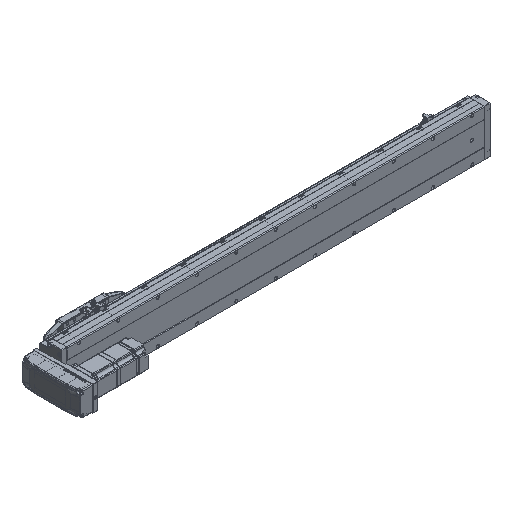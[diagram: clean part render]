
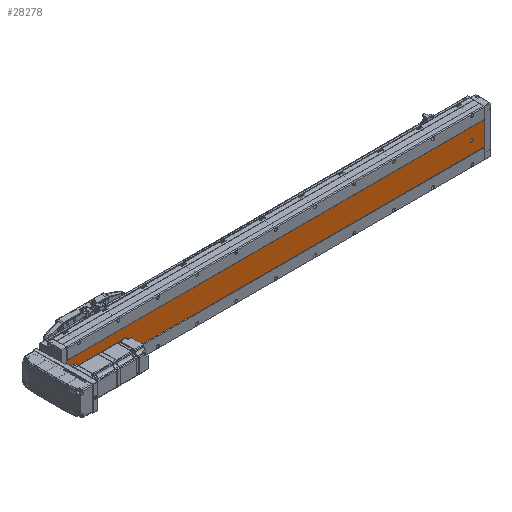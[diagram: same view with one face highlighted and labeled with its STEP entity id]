
A CAD part, isometric view. The second image highlights one B-rep face of the part: STEP entity #28278.
In plain terms, the highlighted planar face has unit normal (0, -1, 0).
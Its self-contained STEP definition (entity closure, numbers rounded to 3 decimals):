
#176 = EDGE_CURVE ( 'NONE', #70844, #23624, #48824, .T. ) ;
#596 = VERTEX_POINT ( 'NONE', #64797 ) ;
#1865 = VERTEX_POINT ( 'NONE', #21945 ) ;
#1921 = AXIS2_PLACEMENT_3D ( 'NONE', #20365, #45517, #64207 ) ;
#2333 = CARTESIAN_POINT ( 'NONE',  ( -39.892, -52.848, 931. ) ) ;
#3160 = VECTOR ( 'NONE', #64831, 1000. ) ;
#3399 = AXIS2_PLACEMENT_3D ( 'NONE', #54602, #60924, #23341 ) ;
#4233 = ORIENTED_EDGE ( 'NONE', *, *, #47274, .T. ) ;
#4764 = VECTOR ( 'NONE', #57165, 1000. ) ;
#5585 = ORIENTED_EDGE ( 'NONE', *, *, #79745, .T. ) ;
#5616 = CARTESIAN_POINT ( 'NONE',  ( -39.892, -52.848, 32. ) ) ;
#5720 = FACE_BOUND ( 'NONE', #21204, .T. ) ;
#6120 = DIRECTION ( 'NONE',  ( 0., 1., 0. ) ) ;
#6353 = CARTESIAN_POINT ( 'NONE',  ( -9.892, -52.848, 1061. ) ) ;
#8074 = AXIS2_PLACEMENT_3D ( 'NONE', #81326, #6120, #56410 ) ;
#8247 = CARTESIAN_POINT ( 'NONE',  ( -39.892, -52.848, 30. ) ) ;
#8263 = ORIENTED_EDGE ( 'NONE', *, *, #73656, .T. ) ;
#9354 = DIRECTION ( 'NONE',  ( 0., 0., 1. ) ) ;
#9417 = ORIENTED_EDGE ( 'NONE', *, *, #76785, .T. ) ;
#9771 = CARTESIAN_POINT ( 'NONE',  ( -39.892, -52.848, 1034.5 ) ) ;
#10187 = CIRCLE ( 'NONE', #1921, 3.5 ) ;
#10412 = ORIENTED_EDGE ( 'NONE', *, *, #16527, .T. ) ;
#10441 = EDGE_CURVE ( 'NONE', #1865, #36926, #41970, .T. ) ;
#10847 = CIRCLE ( 'NONE', #69382, 3.5 ) ;
#12027 = CARTESIAN_POINT ( 'NONE',  ( -43.392, -52.848, 30. ) ) ;
#12266 = LINE ( 'NONE', #69091, #41777 ) ;
#13617 = ORIENTED_EDGE ( 'NONE', *, *, #10441, .T. ) ;
#13829 = EDGE_CURVE ( 'NONE', #23624, #70844, #38627, .T. ) ;
#15469 = CARTESIAN_POINT ( 'NONE',  ( -43.392, -52.848, 1061. ) ) ;
#16104 = DIRECTION ( 'NONE',  ( 1., 0., 0. ) ) ;
#16527 = EDGE_CURVE ( 'NONE', #40555, #22874, #71548, .T. ) ;
#17632 = FACE_BOUND ( 'NONE', #66621, .T. ) ;
#19496 = DIRECTION ( 'NONE',  ( 1., 0., 0. ) ) ;
#19590 = VECTOR ( 'NONE', #71736, 1000. ) ;
#20365 = CARTESIAN_POINT ( 'NONE',  ( -39.892, -52.848, 30. ) ) ;
#20854 = DIRECTION ( 'NONE',  ( 0., 1., 0. ) ) ;
#21204 = EDGE_LOOP ( 'NONE', ( #23195, #30344 ) ) ;
#21600 = FACE_OUTER_BOUND ( 'NONE', #80601, .T. ) ;
#21945 = CARTESIAN_POINT ( 'NONE',  ( -69.892, -52.848, 0. ) ) ;
#22825 = VERTEX_POINT ( 'NONE', #65369 ) ;
#22874 = VERTEX_POINT ( 'NONE', #46682 ) ;
#23086 = DIRECTION ( 'NONE',  ( 0., 0., 1. ) ) ;
#23195 = ORIENTED_EDGE ( 'NONE', *, *, #176, .T. ) ;
#23341 = DIRECTION ( 'NONE',  ( 0., 0., 1. ) ) ;
#23624 = VERTEX_POINT ( 'NONE', #34868 ) ;
#23972 = DIRECTION ( 'NONE',  ( 0., 1., 0. ) ) ;
#24644 = DIRECTION ( 'NONE',  ( 0., 0., 1. ) ) ;
#25032 = CARTESIAN_POINT ( 'NONE',  ( -36.392, -52.848, 32. ) ) ;
#28278 = ADVANCED_FACE ( 'NONE', ( #17632, #5720, #49961, #21600 ), #67479, .F. ) ;
#29991 = VERTEX_POINT ( 'NONE', #12027 ) ;
#30344 = ORIENTED_EDGE ( 'NONE', *, *, #13829, .T. ) ;
#31275 = DIRECTION ( 'NONE',  ( 0., 1., 0. ) ) ;
#31511 = VERTEX_POINT ( 'NONE', #55970 ) ;
#32418 = VERTEX_POINT ( 'NONE', #73044 ) ;
#33715 = ORIENTED_EDGE ( 'NONE', *, *, #51371, .F. ) ;
#33898 = CARTESIAN_POINT ( 'NONE',  ( -69.892, -52.848, 1061. ) ) ;
#34868 = CARTESIAN_POINT ( 'NONE',  ( -39.892, -52.848, 934.5 ) ) ;
#35606 = EDGE_LOOP ( 'NONE', ( #5585, #8263 ) ) ;
#36665 = LINE ( 'NONE', #15469, #3160 ) ;
#36926 = VERTEX_POINT ( 'NONE', #60071 ) ;
#38627 = CIRCLE ( 'NONE', #58667, 3.5 ) ;
#40531 = CARTESIAN_POINT ( 'NONE',  ( -36.392, -52.848, 1061. ) ) ;
#40555 = VERTEX_POINT ( 'NONE', #25032 ) ;
#41777 = VECTOR ( 'NONE', #19496, 1000. ) ;
#41970 = LINE ( 'NONE', #73371, #77242 ) ;
#42657 = CARTESIAN_POINT ( 'NONE',  ( -39.892, -52.848, 931. ) ) ;
#44051 = CARTESIAN_POINT ( 'NONE',  ( -39.892, -52.848, 927.5 ) ) ;
#44388 = EDGE_CURVE ( 'NONE', #22825, #1865, #50490, .T. ) ;
#44847 = EDGE_CURVE ( 'NONE', #22874, #596, #10187, .T. ) ;
#45517 = DIRECTION ( 'NONE',  ( 0., 1., 0. ) ) ;
#46682 = CARTESIAN_POINT ( 'NONE',  ( -36.392, -52.848, 30. ) ) ;
#47030 = LINE ( 'NONE', #6353, #4764 ) ;
#47274 = EDGE_CURVE ( 'NONE', #596, #29991, #10847, .T. ) ;
#48027 = CARTESIAN_POINT ( 'NONE',  ( -43.392, -52.848, 32. ) ) ;
#48824 = CIRCLE ( 'NONE', #68654, 3.5 ) ;
#49961 = FACE_BOUND ( 'NONE', #35606, .T. ) ;
#50490 = LINE ( 'NONE', #33898, #52483 ) ;
#51371 = EDGE_CURVE ( 'NONE', #32418, #36926, #47030, .T. ) ;
#51715 = AXIS2_PLACEMENT_3D ( 'NONE', #66688, #54876, #23086 ) ;
#52483 = VECTOR ( 'NONE', #70851, 1000. ) ;
#54602 = CARTESIAN_POINT ( 'NONE',  ( -39.892, -52.848, 1031. ) ) ;
#54876 = DIRECTION ( 'NONE',  ( 0., 1., 0. ) ) ;
#55970 = CARTESIAN_POINT ( 'NONE',  ( -39.892, -52.848, 1027.5 ) ) ;
#56410 = DIRECTION ( 'NONE',  ( 0., 0., 1. ) ) ;
#57165 = DIRECTION ( 'NONE',  ( 0., 0., -1. ) ) ;
#58667 = AXIS2_PLACEMENT_3D ( 'NONE', #42657, #23972, #80161 ) ;
#60071 = CARTESIAN_POINT ( 'NONE',  ( -9.892, -52.848, 0. ) ) ;
#60432 = VERTEX_POINT ( 'NONE', #48027 ) ;
#60924 = DIRECTION ( 'NONE',  ( 0., 1., 0. ) ) ;
#62519 = CIRCLE ( 'NONE', #8074, 3.5 ) ;
#62931 = AXIS2_PLACEMENT_3D ( 'NONE', #5616, #31275, #24644 ) ;
#63584 = ORIENTED_EDGE ( 'NONE', *, *, #44847, .T. ) ;
#64207 = DIRECTION ( 'NONE',  ( 0., 0., 1. ) ) ;
#64540 = ORIENTED_EDGE ( 'NONE', *, *, #44388, .T. ) ;
#64797 = CARTESIAN_POINT ( 'NONE',  ( -39.892, -52.848, 26.5 ) ) ;
#64831 = DIRECTION ( 'NONE',  ( 0., 0., 1. ) ) ;
#65369 = CARTESIAN_POINT ( 'NONE',  ( -69.892, -52.848, 1061. ) ) ;
#66621 = EDGE_LOOP ( 'NONE', ( #9417, #10412, #63584, #4233, #78463 ) ) ;
#66688 = CARTESIAN_POINT ( 'NONE',  ( -69.892, -52.848, 1061. ) ) ;
#66784 = CIRCLE ( 'NONE', #62931, 3.5 ) ;
#67479 = PLANE ( 'NONE',  #51715 ) ;
#68654 = AXIS2_PLACEMENT_3D ( 'NONE', #2333, #20854, #77009 ) ;
#69091 = CARTESIAN_POINT ( 'NONE',  ( -69.892, -52.848, 1061. ) ) ;
#69382 = AXIS2_PLACEMENT_3D ( 'NONE', #8247, #72176, #9354 ) ;
#70715 = VERTEX_POINT ( 'NONE', #9771 ) ;
#70844 = VERTEX_POINT ( 'NONE', #44051 ) ;
#70851 = DIRECTION ( 'NONE',  ( 0., 0., -1. ) ) ;
#71548 = LINE ( 'NONE', #40531, #19590 ) ;
#71736 = DIRECTION ( 'NONE',  ( 0., 0., -1. ) ) ;
#71787 = ORIENTED_EDGE ( 'NONE', *, *, #74108, .F. ) ;
#72176 = DIRECTION ( 'NONE',  ( 0., 1., 0. ) ) ;
#73044 = CARTESIAN_POINT ( 'NONE',  ( -9.892, -52.848, 1061. ) ) ;
#73349 = CIRCLE ( 'NONE', #3399, 3.5 ) ;
#73371 = CARTESIAN_POINT ( 'NONE',  ( -69.892, -52.848, 0. ) ) ;
#73656 = EDGE_CURVE ( 'NONE', #70715, #31511, #62519, .T. ) ;
#74108 = EDGE_CURVE ( 'NONE', #22825, #32418, #12266, .T. ) ;
#75589 = EDGE_CURVE ( 'NONE', #29991, #60432, #36665, .T. ) ;
#76785 = EDGE_CURVE ( 'NONE', #60432, #40555, #66784, .T. ) ;
#77009 = DIRECTION ( 'NONE',  ( 0., 0., 1. ) ) ;
#77242 = VECTOR ( 'NONE', #16104, 1000. ) ;
#78463 = ORIENTED_EDGE ( 'NONE', *, *, #75589, .T. ) ;
#79745 = EDGE_CURVE ( 'NONE', #31511, #70715, #73349, .T. ) ;
#80161 = DIRECTION ( 'NONE',  ( 0., 0., 1. ) ) ;
#80601 = EDGE_LOOP ( 'NONE', ( #13617, #33715, #71787, #64540 ) ) ;
#81326 = CARTESIAN_POINT ( 'NONE',  ( -39.892, -52.848, 1031. ) ) ;
